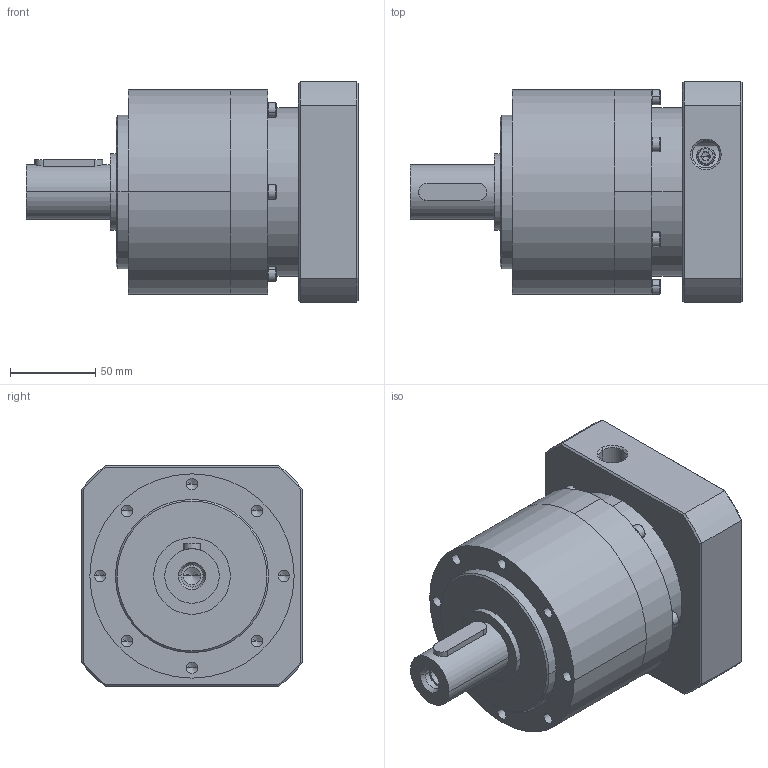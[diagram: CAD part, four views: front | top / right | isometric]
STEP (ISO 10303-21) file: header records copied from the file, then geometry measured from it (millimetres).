
FILE_DESCRIPTION (( 'STEP AP203' ), '1' );
FILE_NAME ('6C4XS.110130.142.STEP', '2019-06-12T04:03:29', ( '' ), ( '' ), 'SwSTEP 2.0', 'SolidWorks 2010', '' );
FILE_SCHEMA (( 'CONFIG_CONTROL_DESIGN' ));
Length unit declared in the file: millimetre
Products named in the file (7): PGCH120-BP(模型)_2銑工; 234BC45310_銑工; 雙圓鍵10x8x40; PGCH120-B(模型)_0.成品; 沉頭內六角M6xP1.0x25_內六角螺絲M6xP1.0x20L; M5-0.8-30內六角螺絲; 6C4XS.110130.142
Assembly tree (17 placements, depth 2):
  6C4XS.110130.142
    沉頭內六角M6xP1.0x25_內六角螺絲M6xP1.0x20L  x7
    M5-0.8-30內六角螺絲  x6
    雙圓鍵10x8x40
    PGCH120-BP(模型)_2銑工
    234BC45310_銑工
    PGCH120-B(模型)_0.成品
Bounding box: 195 x 130 x 130 mm (x, y, z)
Volume: 1542131 mm3; surface area: 177165.1 mm2
Topology: 17 solids, 17 shells, 581 faces, 1308 edges, 766 vertices
Faces by surface type: plane 248, cylinder 185, cone 148
Entity records: 9659 total; most frequent: CARTESIAN_POINT 1717, DIRECTION 1584, ORIENTED_EDGE 1300, EDGE_CURVE 650, AXIS2_PLACEMENT_3D 637, VERTEX_POINT 408, EDGE_LOOP 380, CIRCLE 316
